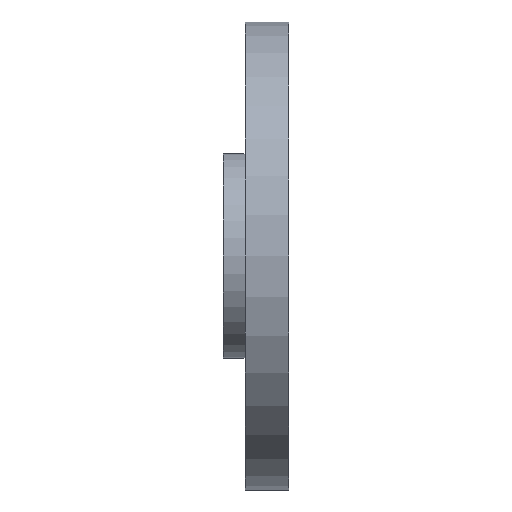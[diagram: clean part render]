
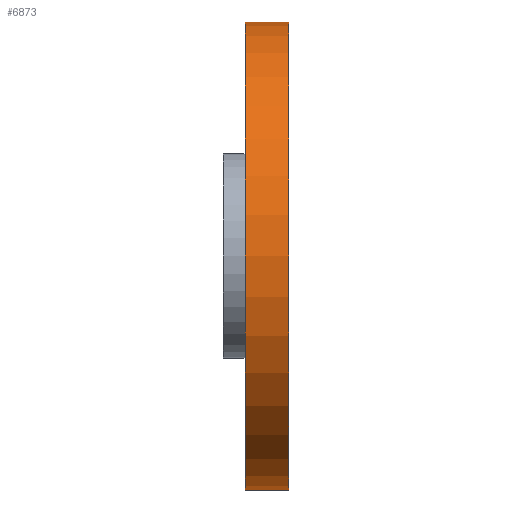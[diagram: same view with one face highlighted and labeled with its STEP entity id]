
A CAD part, left-side view. The second image highlights one B-rep face of the part: STEP entity #6873.
In plain terms, the highlighted cylindrical face has radius 15.99 mm (diameter 31.98 mm), a partial arc.
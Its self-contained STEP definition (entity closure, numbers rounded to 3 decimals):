
#131 = CIRCLE ( 'NONE', #6258, 15.99 ) ;
#716 = DIRECTION ( 'NONE',  ( 0., 0., 1. ) ) ;
#834 = CARTESIAN_POINT ( 'NONE',  ( 0., 3., 0. ) ) ;
#936 = DIRECTION ( 'NONE',  ( 0., 1., 0. ) ) ;
#1001 = CARTESIAN_POINT ( 'NONE',  ( 0., 0., 0. ) ) ;
#1037 = CARTESIAN_POINT ( 'NONE',  ( 0., 3., 15.99 ) ) ;
#1343 = CARTESIAN_POINT ( 'NONE',  ( 0., 3., 15.99 ) ) ;
#2151 = VECTOR ( 'NONE', #14918, 1000. ) ;
#3497 = DIRECTION ( 'NONE',  ( 0., 0., -1. ) ) ;
#3893 = VERTEX_POINT ( 'NONE', #17577 ) ;
#4280 = CARTESIAN_POINT ( 'NONE',  ( 0., 0., 15.99 ) ) ;
#4463 = VERTEX_POINT ( 'NONE', #4280 ) ;
#4565 = FACE_OUTER_BOUND ( 'NONE', #7306, .T. ) ;
#4838 = EDGE_CURVE ( 'NONE', #3893, #13296, #16238, .T. ) ;
#5184 = DIRECTION ( 'NONE',  ( 0., 0., 1. ) ) ;
#5911 = DIRECTION ( 'NONE',  ( 0., -1., 0. ) ) ;
#6064 = DIRECTION ( 'NONE',  ( 0., -1., 0. ) ) ;
#6258 = AXIS2_PLACEMENT_3D ( 'NONE', #834, #7587, #716 ) ;
#6272 = AXIS2_PLACEMENT_3D ( 'NONE', #8833, #6064, #3497 ) ;
#6873 = ADVANCED_FACE ( 'NONE', ( #4565 ), #17477, .T. ) ;
#7306 = EDGE_LOOP ( 'NONE', ( #10804, #16736, #14061, #16606 ) ) ;
#7587 = DIRECTION ( 'NONE',  ( 0., 1., 0. ) ) ;
#8633 = CIRCLE ( 'NONE', #11506, 15.99 ) ;
#8833 = CARTESIAN_POINT ( 'NONE',  ( 0., 3., 0. ) ) ;
#9426 = EDGE_CURVE ( 'NONE', #13296, #4463, #8633, .T. ) ;
#10234 = LINE ( 'NONE', #1343, #2151 ) ;
#10354 = EDGE_CURVE ( 'NONE', #10678, #4463, #10234, .T. ) ;
#10678 = VERTEX_POINT ( 'NONE', #1037 ) ;
#10804 = ORIENTED_EDGE ( 'NONE', *, *, #10354, .F. ) ;
#11506 = AXIS2_PLACEMENT_3D ( 'NONE', #1001, #936, #5184 ) ;
#12681 = VECTOR ( 'NONE', #5911, 1000. ) ;
#12734 = CARTESIAN_POINT ( 'NONE',  ( 0., 3., -15.99 ) ) ;
#13296 = VERTEX_POINT ( 'NONE', #13452 ) ;
#13452 = CARTESIAN_POINT ( 'NONE',  ( 0., 0., -15.99 ) ) ;
#14061 = ORIENTED_EDGE ( 'NONE', *, *, #4838, .T. ) ;
#14918 = DIRECTION ( 'NONE',  ( 0., -1., 0. ) ) ;
#15888 = EDGE_CURVE ( 'NONE', #3893, #10678, #131, .T. ) ;
#16238 = LINE ( 'NONE', #12734, #12681 ) ;
#16606 = ORIENTED_EDGE ( 'NONE', *, *, #9426, .T. ) ;
#16736 = ORIENTED_EDGE ( 'NONE', *, *, #15888, .F. ) ;
#17477 = CYLINDRICAL_SURFACE ( 'NONE', #6272, 15.99 ) ;
#17577 = CARTESIAN_POINT ( 'NONE',  ( 0., 3., -15.99 ) ) ;
